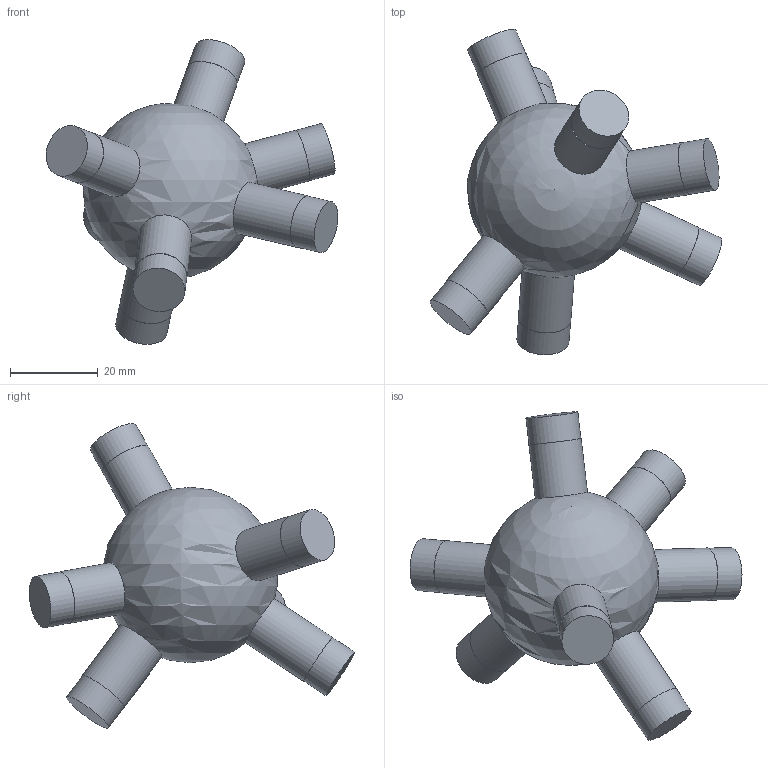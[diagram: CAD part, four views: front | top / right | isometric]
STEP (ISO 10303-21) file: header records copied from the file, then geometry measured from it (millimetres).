
FILE_DESCRIPTION(('Open CASCADE Model'),'2;1');
FILE_NAME('Open CASCADE Shape Model','2026-10-21T12:47:57',('Author'),( 'Open CASCADE'),'Open CASCADE STEP processor 7.9','Open CASCADE 7.9' ,'Unknown');
FILE_SCHEMA(('AUTOMOTIVE_DESIGN { 1 0 10303 214 1 1 1 1 }'));
Length unit declared in the file: millimetre
Products named in the file (1): Open CASCADE STEP translator 7.9 104
Bounding box: 66.52 x 74.22 x 69.47 mm (x, y, z)
Volume: 48687.7 mm3; surface area: 10202.6 mm2
Topology: 1 solids, 1 shells, 29 faces, 47 edges, 32 vertices
Faces by surface type: cylinder 14, plane 14, sphere 1
Full cylindrical faces by diameter (mm): 11.9 x7, 12 x7
Entity records: 1723 total; most frequent: CARTESIAN_POINT 649, DIRECTION 221, ORIENTED_EDGE 92, PCURVE 92, DEFINITIONAL_REPRESENTATION 92, LINE 76, VECTOR 76, AXIS2_PLACEMENT_3D 62
